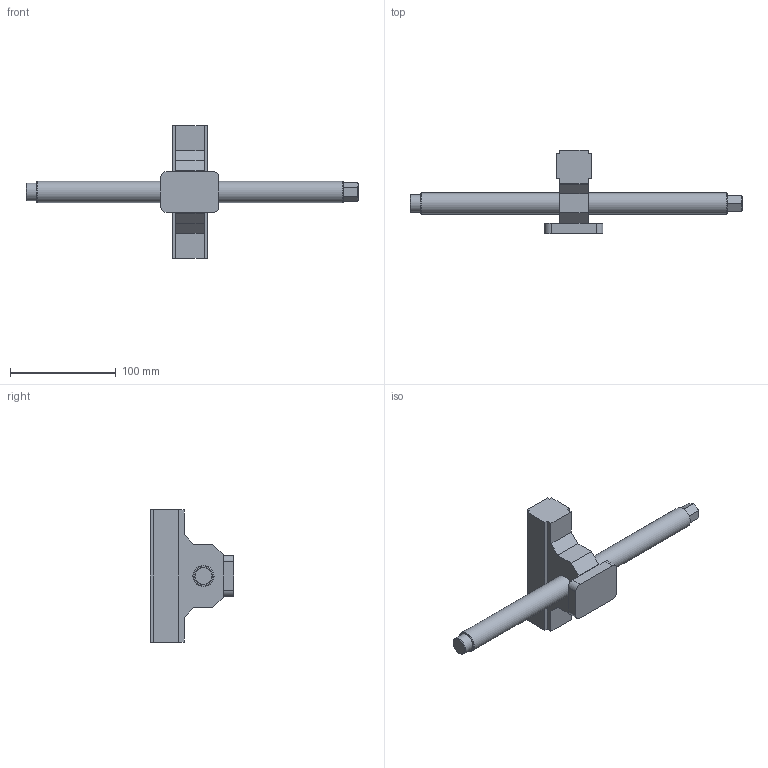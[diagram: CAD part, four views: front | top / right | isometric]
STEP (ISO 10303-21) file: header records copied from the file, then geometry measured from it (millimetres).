
FILE_DESCRIPTION (( 'STEP AP214' ), '1' );
FILE_NAME ('48305-TG2527.STEP', '2020-03-24T15:01:00', ( '' ), ( '' ), 'SwSTEP 2.0', 'SolidWorks 2019', '' );
FILE_SCHEMA (( 'AUTOMOTIVE_DESIGN' ));
Length unit declared in the file: millimetre
Products named in the file (1): 48305-TG2527
Bounding box: 314 x 79 x 125 mm (x, y, z)
Volume: 293724.5 mm3; surface area: 45904 mm2
Topology: 1 solids, 1 shells, 69 faces, 169 edges, 107 vertices
Faces by surface type: plane 59, cylinder 7, cone 3
Full cylindrical faces by diameter (mm): 16.5 x1, 20 x2
Entity records: 2454 total; most frequent: CARTESIAN_POINT 336, ORIENTED_EDGE 322, DIRECTION 318, EDGE_CURVE 161, LINE 144, VECTOR 144, VERTEX_POINT 105, AXIS2_PLACEMENT_3D 87
